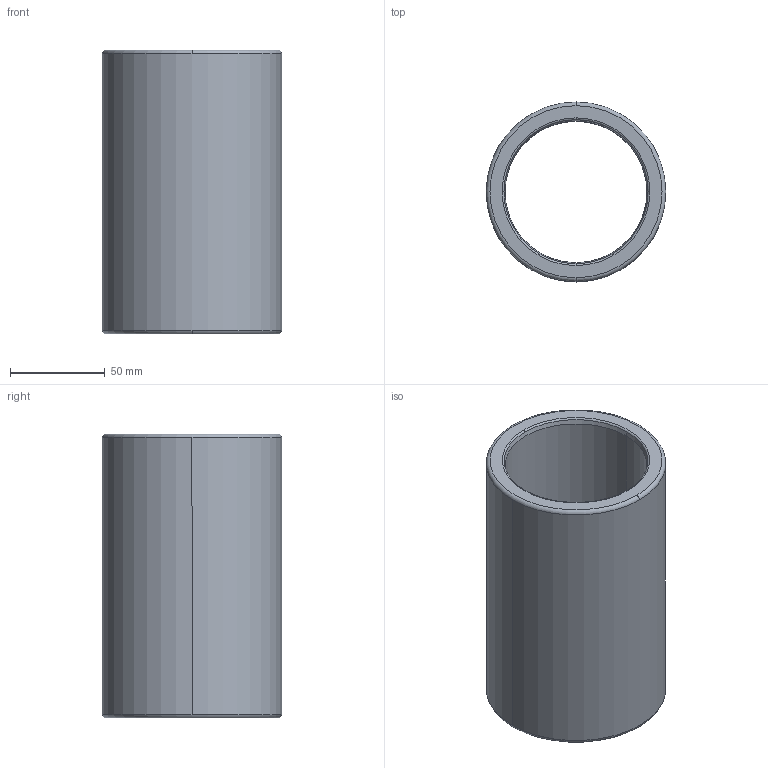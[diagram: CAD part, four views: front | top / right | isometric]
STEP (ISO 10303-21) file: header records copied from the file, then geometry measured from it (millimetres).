
FILE_DESCRIPTION((''),'2;1');
FILE_NAME('B30_063_150.stp','2009-01-12T10:40:57',(''),(''),'Mechanical Desktop 2009','Mechanical Desktop 2009',', , ');
FILE_SCHEMA(('CONFIG_CONTROL_DESIGN'));
Length unit declared in the file: millimetre
Products named in the file (2): Product; blmdl1
Assembly tree (1 placements, depth 2):
  Product
    blmdl1
Bounding box: 94.98 x 94.98 x 150 mm (x, y, z)
Volume: 399736.5 mm3; surface area: 84487.6 mm2
Topology: 1 solids, 1 shells, 18 faces, 48 edges, 32 vertices
Faces by surface type: torus 8, cylinder 4, cone 4, plane 2
Entity records: 705 total; most frequent: DIRECTION 128, CARTESIAN_POINT 100, ORIENTED_EDGE 96, AXIS2_PLACEMENT_3D 60, EDGE_CURVE 48, CIRCLE 40, VERTEX_POINT 32, EDGE_LOOP 20
